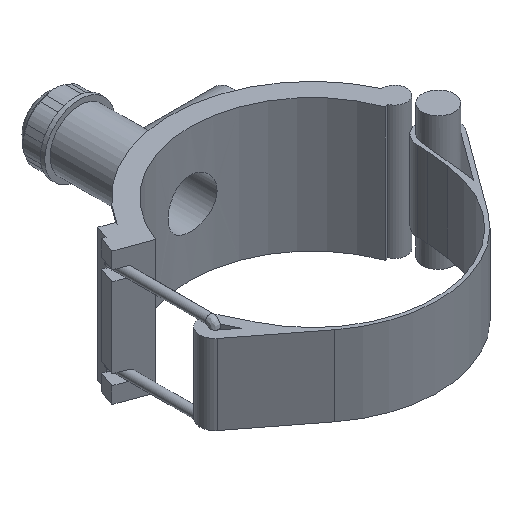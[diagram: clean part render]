
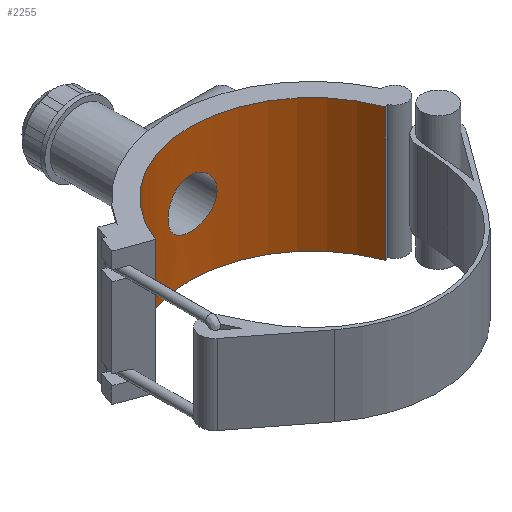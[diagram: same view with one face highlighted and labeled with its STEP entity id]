
A CAD part, isometric view. The second image highlights one B-rep face of the part: STEP entity #2255.
In plain terms, the highlighted cylindrical face has radius 161.7 mm (diameter 323.4 mm), a partial arc.
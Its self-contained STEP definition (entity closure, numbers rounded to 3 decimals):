
#49=FACE_BOUND('',#388,.T.);
#243=FACE_OUTER_BOUND('',#387,.T.);
#387=EDGE_LOOP('',(#2084,#2085,#2086,#2087));
#388=EDGE_LOOP('',(#2088,#2089));
#467=CIRCLE('',#2449,161.7);
#472=CIRCLE('',#2455,161.7);
#497=B_SPLINE_CURVE_WITH_KNOTS('',3,(#3246,#3247,#3248,#3249,#3250,#3251,
#3252,#3253,#3254,#3255,#3256,#3257,#3258,#3259,#3260,#3261,#3262,#3263,
#3264,#3265,#3266,#3267,#3268,#3269,#3270,#3271,#3272,#3273,#3274,#3275,
#3276,#3277,#3278,#3279,#3280,#3281,#3282,#3283,#3284,#3285,#3286,#3287,
#3288,#3289,#3290,#3291,#3292,#3293,#3294,#3295),.UNSPECIFIED.,.F.,.F.,
(4,2,2,2,2,2,2,2,2,2,2,2,2,2,2,2,2,2,2,2,2,2,2,2,4),(0.,0.614,
1.227,1.841,2.455,3.068,3.682,
4.296,4.909,5.523,6.136,6.75,
7.364,7.977,8.591,9.205,9.818,
10.432,11.046,11.659,12.273,12.887,
13.5,14.114,14.727),.UNSPECIFIED.);
#498=B_SPLINE_CURVE_WITH_KNOTS('',3,(#3296,#3297,#3298,#3299,#3300,#3301,
#3302,#3303,#3304,#3305,#3306,#3307,#3308,#3309,#3310,#3311,#3312,#3313),
 .UNSPECIFIED.,.F.,.F.,(4,2,2,2,2,2,2,2,4),(14.727,15.341,
15.955,16.568,17.182,17.796,18.409,
19.023,19.637),.UNSPECIFIED.);
#635=LINE('',#3892,#822);
#708=LINE('',#4123,#895);
#822=VECTOR('',#2911,10.);
#895=VECTOR('',#3104,10.);
#921=VERTEX_POINT('',#3243);
#922=VERTEX_POINT('',#3245);
#1044=VERTEX_POINT('',#3889);
#1045=VERTEX_POINT('',#3891);
#1076=VERTEX_POINT('',#4057);
#1081=VERTEX_POINT('',#4069);
#1129=EDGE_CURVE('',#922,#921,#497,.T.);
#1130=EDGE_CURVE('',#921,#922,#498,.T.);
#1312=EDGE_CURVE('',#1045,#1044,#635,.T.);
#1371=EDGE_CURVE('',#1045,#1076,#467,.T.);
#1378=EDGE_CURVE('',#1081,#1044,#472,.T.);
#1404=EDGE_CURVE('',#1081,#1076,#708,.T.);
#2084=ORIENTED_EDGE('',*,*,#1312,.T.);
#2085=ORIENTED_EDGE('',*,*,#1378,.F.);
#2086=ORIENTED_EDGE('',*,*,#1404,.T.);
#2087=ORIENTED_EDGE('',*,*,#1371,.F.);
#2088=ORIENTED_EDGE('',*,*,#1129,.T.);
#2089=ORIENTED_EDGE('',*,*,#1130,.T.);
#2130=CYLINDRICAL_SURFACE('',#2514,161.7);
#2255=ADVANCED_FACE('',(#243,#49),#2130,.F.);
#2449=AXIS2_PLACEMENT_3D('',#4058,#3021,#3022);
#2455=AXIS2_PLACEMENT_3D('',#4071,#3035,#3036);
#2514=AXIS2_PLACEMENT_3D('',#4503,#3180,#3181);
#2911=DIRECTION('',(0.,0.,-1.));
#3021=DIRECTION('center_axis',(0.,0.,-1.));
#3022=DIRECTION('ref_axis',(-1.,0.,0.));
#3035=DIRECTION('center_axis',(0.,0.,1.));
#3036=DIRECTION('ref_axis',(-1.,0.,0.));
#3104=DIRECTION('',(0.,0.,1.));
#3180=DIRECTION('center_axis',(0.,0.,1.));
#3181=DIRECTION('ref_axis',(-1.,0.,0.));
#3243=CARTESIAN_POINT('',(0.,161.7,-32.486));
#3245=CARTESIAN_POINT('',(-32.486,158.403,0.));
#3246=CARTESIAN_POINT('Ctrl Pts',(-32.486,158.403,0.));
#3247=CARTESIAN_POINT('Ctrl Pts',(-32.486,158.403,2.046));
#3248=CARTESIAN_POINT('Ctrl Pts',(-32.289,158.444,4.159));
#3249=CARTESIAN_POINT('Ctrl Pts',(-31.464,158.61,8.36));
#3250=CARTESIAN_POINT('Ctrl Pts',(-30.836,158.735,10.447));
#3251=CARTESIAN_POINT('Ctrl Pts',(-29.177,159.048,14.447));
#3252=CARTESIAN_POINT('Ctrl Pts',(-28.144,159.236,16.363));
#3253=CARTESIAN_POINT('Ctrl Pts',(-25.761,159.639,19.906));
#3254=CARTESIAN_POINT('Ctrl Pts',(-24.41,159.854,21.532));
#3255=CARTESIAN_POINT('Ctrl Pts',(-21.532,160.267,24.41));
#3256=CARTESIAN_POINT('Ctrl Pts',(-19.906,160.48,25.761));
#3257=CARTESIAN_POINT('Ctrl Pts',(-16.364,160.88,28.144));
#3258=CARTESIAN_POINT('Ctrl Pts',(-14.447,161.066,29.177));
#3259=CARTESIAN_POINT('Ctrl Pts',(-10.447,161.375,30.836));
#3260=CARTESIAN_POINT('Ctrl Pts',(-8.36,161.497,31.464));
#3261=CARTESIAN_POINT('Ctrl Pts',(-4.159,161.66,32.289));
#3262=CARTESIAN_POINT('Ctrl Pts',(-2.045,161.7,32.486));
#3263=CARTESIAN_POINT('Ctrl Pts',(2.045,161.7,32.486));
#3264=CARTESIAN_POINT('Ctrl Pts',(4.159,161.66,32.289));
#3265=CARTESIAN_POINT('Ctrl Pts',(8.36,161.497,31.464));
#3266=CARTESIAN_POINT('Ctrl Pts',(10.447,161.375,30.836));
#3267=CARTESIAN_POINT('Ctrl Pts',(14.447,161.066,29.177));
#3268=CARTESIAN_POINT('Ctrl Pts',(16.364,160.88,28.144));
#3269=CARTESIAN_POINT('Ctrl Pts',(19.906,160.48,25.761));
#3270=CARTESIAN_POINT('Ctrl Pts',(21.532,160.267,24.41));
#3271=CARTESIAN_POINT('Ctrl Pts',(24.41,159.854,21.532));
#3272=CARTESIAN_POINT('Ctrl Pts',(25.761,159.639,19.906));
#3273=CARTESIAN_POINT('Ctrl Pts',(28.144,159.236,16.363));
#3274=CARTESIAN_POINT('Ctrl Pts',(29.177,159.048,14.447));
#3275=CARTESIAN_POINT('Ctrl Pts',(30.836,158.735,10.447));
#3276=CARTESIAN_POINT('Ctrl Pts',(31.464,158.61,8.36));
#3277=CARTESIAN_POINT('Ctrl Pts',(32.289,158.444,4.159));
#3278=CARTESIAN_POINT('Ctrl Pts',(32.486,158.403,2.046));
#3279=CARTESIAN_POINT('Ctrl Pts',(32.486,158.403,-2.046));
#3280=CARTESIAN_POINT('Ctrl Pts',(32.289,158.444,-4.159));
#3281=CARTESIAN_POINT('Ctrl Pts',(31.464,158.61,-8.36));
#3282=CARTESIAN_POINT('Ctrl Pts',(30.836,158.735,-10.447));
#3283=CARTESIAN_POINT('Ctrl Pts',(29.177,159.048,-14.447));
#3284=CARTESIAN_POINT('Ctrl Pts',(28.144,159.236,-16.363));
#3285=CARTESIAN_POINT('Ctrl Pts',(25.761,159.639,-19.906));
#3286=CARTESIAN_POINT('Ctrl Pts',(24.41,159.854,-21.532));
#3287=CARTESIAN_POINT('Ctrl Pts',(21.532,160.267,-24.41));
#3288=CARTESIAN_POINT('Ctrl Pts',(19.906,160.48,-25.761));
#3289=CARTESIAN_POINT('Ctrl Pts',(16.364,160.88,-28.144));
#3290=CARTESIAN_POINT('Ctrl Pts',(14.447,161.066,-29.177));
#3291=CARTESIAN_POINT('Ctrl Pts',(10.447,161.375,-30.836));
#3292=CARTESIAN_POINT('Ctrl Pts',(8.36,161.497,-31.464));
#3293=CARTESIAN_POINT('Ctrl Pts',(4.159,161.66,-32.289));
#3294=CARTESIAN_POINT('Ctrl Pts',(2.045,161.7,-32.486));
#3295=CARTESIAN_POINT('Ctrl Pts',(0.,161.7,-32.486));
#3296=CARTESIAN_POINT('Ctrl Pts',(0.,161.7,-32.486));
#3297=CARTESIAN_POINT('Ctrl Pts',(-2.045,161.7,-32.486));
#3298=CARTESIAN_POINT('Ctrl Pts',(-4.159,161.66,-32.289));
#3299=CARTESIAN_POINT('Ctrl Pts',(-8.36,161.497,-31.464));
#3300=CARTESIAN_POINT('Ctrl Pts',(-10.447,161.375,-30.836));
#3301=CARTESIAN_POINT('Ctrl Pts',(-14.447,161.066,-29.177));
#3302=CARTESIAN_POINT('Ctrl Pts',(-16.364,160.88,-28.144));
#3303=CARTESIAN_POINT('Ctrl Pts',(-19.906,160.48,-25.761));
#3304=CARTESIAN_POINT('Ctrl Pts',(-21.532,160.267,-24.41));
#3305=CARTESIAN_POINT('Ctrl Pts',(-24.41,159.854,-21.532));
#3306=CARTESIAN_POINT('Ctrl Pts',(-25.761,159.639,-19.906));
#3307=CARTESIAN_POINT('Ctrl Pts',(-28.144,159.236,-16.363));
#3308=CARTESIAN_POINT('Ctrl Pts',(-29.177,159.048,-14.447));
#3309=CARTESIAN_POINT('Ctrl Pts',(-30.836,158.735,-10.447));
#3310=CARTESIAN_POINT('Ctrl Pts',(-31.464,158.61,-8.36));
#3311=CARTESIAN_POINT('Ctrl Pts',(-32.289,158.444,-4.159));
#3312=CARTESIAN_POINT('Ctrl Pts',(-32.486,158.403,-2.046));
#3313=CARTESIAN_POINT('Ctrl Pts',(-32.486,158.403,0.));
#3889=CARTESIAN_POINT('',(-151.948,55.305,-88.011));
#3891=CARTESIAN_POINT('',(-151.948,55.305,88.011));
#3892=CARTESIAN_POINT('',(-151.948,55.305,0.));
#4057=CARTESIAN_POINT('',(151.948,55.305,88.011));
#4058=CARTESIAN_POINT('Origin',(0.,0.,88.011));
#4069=CARTESIAN_POINT('',(151.948,55.305,-88.011));
#4071=CARTESIAN_POINT('Origin',(0.,0.,-88.011));
#4123=CARTESIAN_POINT('',(151.948,55.305,0.));
#4503=CARTESIAN_POINT('Origin',(0.,0.,0.));
